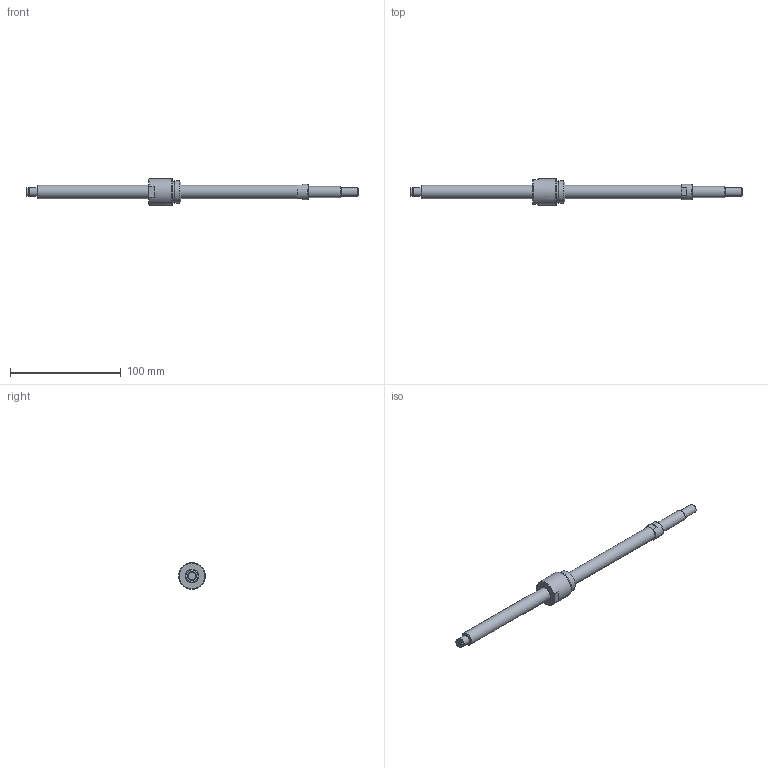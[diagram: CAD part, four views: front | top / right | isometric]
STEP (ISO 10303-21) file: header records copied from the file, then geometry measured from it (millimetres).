
FILE_DESCRIPTION(/* description */ ('STEP AP214'),/* implementation_level */ '2;1');
FILE_NAME(/* name */ 'NSG1204-231R300C5B0X(101)',/* time_stamp */ '2026-08-20T15:51:02+02:00',/* author */ ('License CC BY-ND 4.0'),/* organization */ ('CADENAS'),/* preprocessor_version */ 'ST-DEVELOPER v20',/* originating_system */ 'PARTsolutions',/* authorisation */ ' ');
FILE_SCHEMA (('AUTOMOTIVE_DESIGN {1 0 10303 214 3 1 1}'));
Length unit declared in the file: millimetre
Products named in the file (3): NSG1204-231R300C5B0X(101); NSG1204-231R300C3B_shaft; NSG1204_nut
Assembly tree (2 placements, depth 2):
  NSG1204-231R300C5B0X(101)
    NSG1204-231R300C3B_shaft
    NSG1204_nut
Bounding box: 300 x 24 x 24 mm (x, y, z)
Volume: 40182.7 mm3; surface area: 14982.2 mm2
Topology: 2 solids, 2 shells, 42 faces, 83 edges, 51 vertices
Faces by surface type: plane 20, cylinder 11, cone 10, torus 1
Full cylindrical faces by diameter (mm): 7.6 x1, 8 x3, 10 x1, 12 x2, 14 x1, 18.4 x1, 20 x1, 24 x1
Entity records: 1047 total; most frequent: DIRECTION 186, CARTESIAN_POINT 167, ORIENTED_EDGE 122, AXIS2_PLACEMENT_3D 84, EDGE_LOOP 70, FACE_BOUND 70, EDGE_CURVE 61, VERTEX_POINT 49
